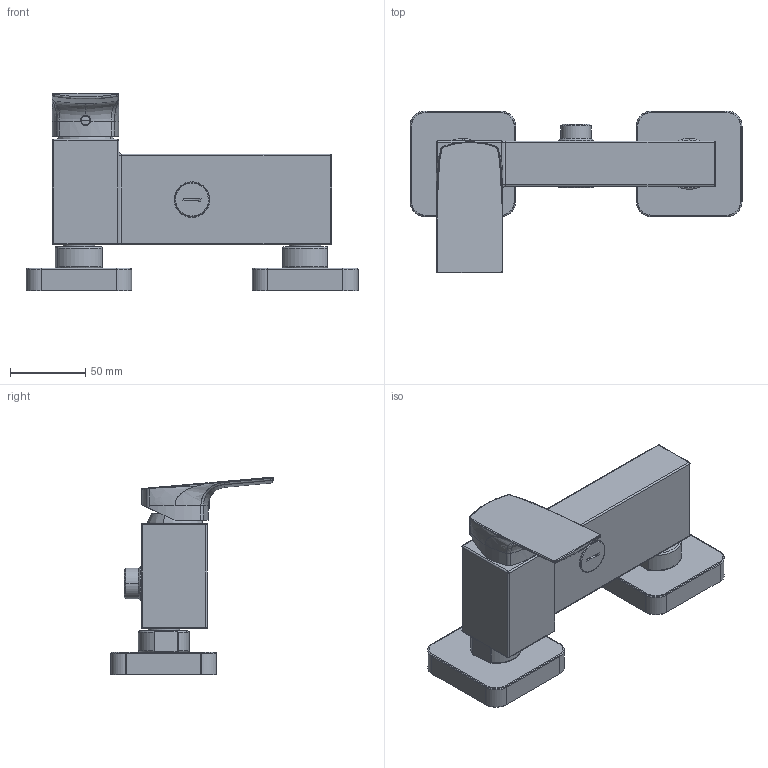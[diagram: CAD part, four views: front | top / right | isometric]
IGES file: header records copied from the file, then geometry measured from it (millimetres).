
Start section:  PTC IGES file: 3d_sw0003.igs
Global section: file name: 3d_sw0003.igs; native system: Creo Parametric by PTC Inc.; preprocessor: 2022014; author: volponeff; organization: Unknown; date: 20241008.085146; units: millimetre
Bounding box: 220 x 107.5 x 131.04 mm (x, y, z)
Surface area: 155528.7 mm2 (no closed solid volume)
Topology: 0 solids, 0 shells, 1277 faces, 6034 edges, 6022 vertices
Faces by surface type: revolution 845, bspline 432
